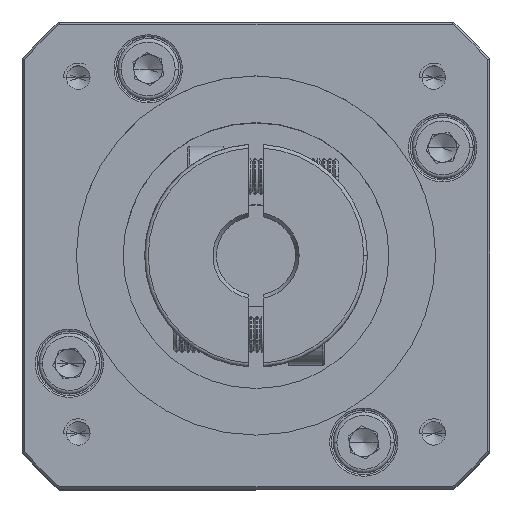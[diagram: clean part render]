
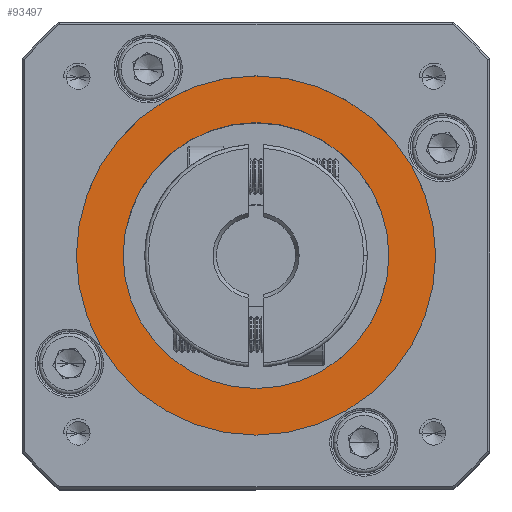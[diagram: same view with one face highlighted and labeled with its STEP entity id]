
A CAD part, top view. The second image highlights one B-rep face of the part: STEP entity #93497.
In plain terms, the highlighted planar face has unit normal (0, 0, 1).
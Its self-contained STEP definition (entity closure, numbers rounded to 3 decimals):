
#692 = AXIS2_PLACEMENT_3D ( 'NONE', #103394, #54185, #5009 ) ;
#2129 = VERTEX_POINT ( 'NONE', #72639 ) ;
#4173 = DIRECTION ( 'NONE',  ( 1., 0., 0. ) ) ;
#4427 = DIRECTION ( 'NONE',  ( 0., 0., 1. ) ) ;
#5009 = DIRECTION ( 'NONE',  ( 1., 0., 0. ) ) ;
#8896 = CIRCLE ( 'NONE', #15557, 18.5 ) ;
#11911 = VERTEX_POINT ( 'NONE', #48158 ) ;
#12971 = PLANE ( 'NONE',  #692 ) ;
#14303 = CARTESIAN_POINT ( 'NONE',  ( 25.338, 15.183, 148.65 ) ) ;
#15557 = AXIS2_PLACEMENT_3D ( 'NONE', #66965, #17815, #75269 ) ;
#17815 = DIRECTION ( 'NONE',  ( 0., 0., -1. ) ) ;
#18207 = VERTEX_POINT ( 'NONE', #39274 ) ;
#18810 = VERTEX_POINT ( 'NONE', #63537 ) ;
#20431 = FACE_OUTER_BOUND ( 'NONE', #88853, .T. ) ;
#22528 = DIRECTION ( 'NONE',  ( 1., 0., 0. ) ) ;
#25598 = AXIS2_PLACEMENT_3D ( 'NONE', #102562, #53360, #4173 ) ;
#26451 = EDGE_CURVE ( 'NONE', #18207, #11911, #8896, .T. ) ;
#26745 = ORIENTED_EDGE ( 'NONE', *, *, #48407, .T. ) ;
#27546 = EDGE_LOOP ( 'NONE', ( #75431, #77262 ) ) ;
#39274 = CARTESIAN_POINT ( 'NONE',  ( 6.838, 15.183, 148.65 ) ) ;
#46064 = EDGE_CURVE ( 'NONE', #2129, #18810, #103223, .T. ) ;
#48158 = CARTESIAN_POINT ( 'NONE',  ( 43.838, 15.183, 148.65 ) ) ;
#48407 = EDGE_CURVE ( 'NONE', #18810, #2129, #80487, .T. ) ;
#53360 = DIRECTION ( 'NONE',  ( 0., 0., 1. ) ) ;
#53597 = CARTESIAN_POINT ( 'NONE',  ( 25.338, 15.183, 148.65 ) ) ;
#54185 = DIRECTION ( 'NONE',  ( 0., 0., 1. ) ) ;
#61886 = DIRECTION ( 'NONE',  ( 1., 0., 0. ) ) ;
#63537 = CARTESIAN_POINT ( 'NONE',  ( 50.338, 15.183, 148.65 ) ) ;
#66965 = CARTESIAN_POINT ( 'NONE',  ( 25.338, 15.183, 148.65 ) ) ;
#68181 = EDGE_CURVE ( 'NONE', #11911, #18207, #104869, .T. ) ;
#69326 = AXIS2_PLACEMENT_3D ( 'NONE', #53597, #4427, #61886 ) ;
#71738 = DIRECTION ( 'NONE',  ( 0., 0., -1. ) ) ;
#72639 = CARTESIAN_POINT ( 'NONE',  ( 0.338, 15.183, 148.65 ) ) ;
#75269 = DIRECTION ( 'NONE',  ( 1., 0., 0. ) ) ;
#75431 = ORIENTED_EDGE ( 'NONE', *, *, #68181, .T. ) ;
#77262 = ORIENTED_EDGE ( 'NONE', *, *, #26451, .T. ) ;
#78558 = ORIENTED_EDGE ( 'NONE', *, *, #46064, .T. ) ;
#80487 = CIRCLE ( 'NONE', #25598, 25. ) ;
#88852 = AXIS2_PLACEMENT_3D ( 'NONE', #14303, #71738, #22528 ) ;
#88853 = EDGE_LOOP ( 'NONE', ( #26745, #78558 ) ) ;
#93497 = ADVANCED_FACE ( 'NONE', ( #20431, #105184 ), #12971, .T. ) ;
#102562 = CARTESIAN_POINT ( 'NONE',  ( 25.338, 15.183, 148.65 ) ) ;
#103223 = CIRCLE ( 'NONE', #69326, 25. ) ;
#103394 = CARTESIAN_POINT ( 'NONE',  ( 25.338, 15.183, 148.65 ) ) ;
#104869 = CIRCLE ( 'NONE', #88852, 18.5 ) ;
#105184 = FACE_BOUND ( 'NONE', #27546, .T. ) ;
